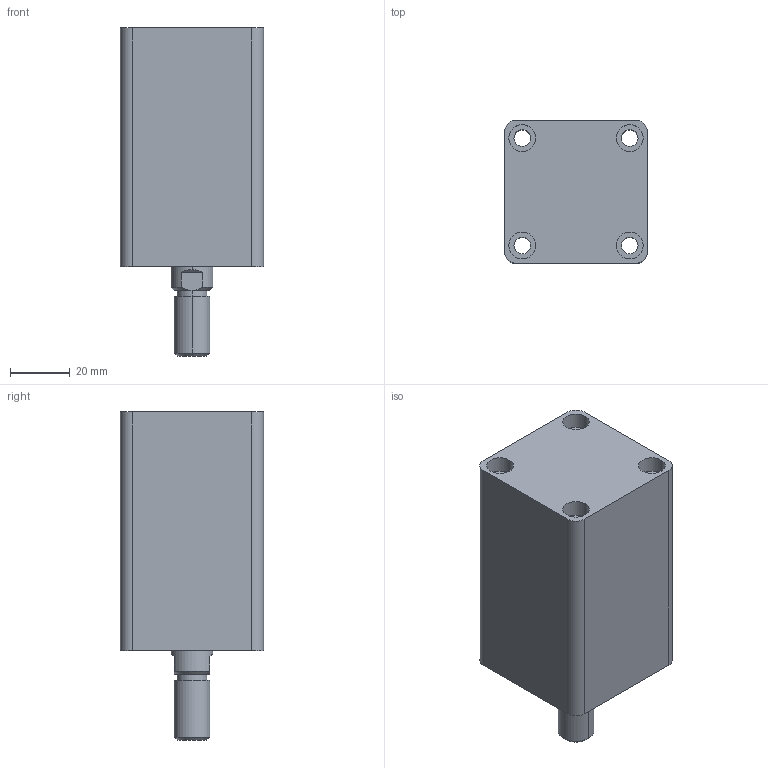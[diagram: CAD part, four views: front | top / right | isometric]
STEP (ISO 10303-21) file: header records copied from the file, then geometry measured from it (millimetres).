
FILE_DESCRIPTION (( 'STEP AP203' ), '1' );
FILE_NAME ('HTB-SD25-35W.STEP', '2019-10-07T06:00:47', ( '微软用户' ), ( '微软中国' ), 'SwSTEP 2.0', 'SolidWorks 2012', '' );
FILE_SCHEMA (( 'CONFIG_CONTROL_DESIGN' ));
Length unit declared in the file: millimetre
Products named in the file (3): HTB-SD25-35掛极; HTB-SD25-35W活塞杆; HTB-SD25-35W
Assembly tree (2 placements, depth 2):
  HTB-SD25-35W
    HTB-SD25-35掛极
    HTB-SD25-35W活塞杆
Bounding box: 48 x 48 x 110 mm (x, y, z)
Volume: 164381.3 mm3; surface area: 37132.9 mm2
Topology: 2 solids, 2 shells, 87 faces, 188 edges, 122 vertices
Faces by surface type: cylinder 44, plane 29, cone 8, torus 6
Entity records: 2759 total; most frequent: DIRECTION 476, CARTESIAN_POINT 446, ORIENTED_EDGE 376, AXIS2_PLACEMENT_3D 204, EDGE_CURVE 188, VERTEX_POINT 122, CIRCLE 112, EDGE_LOOP 112
